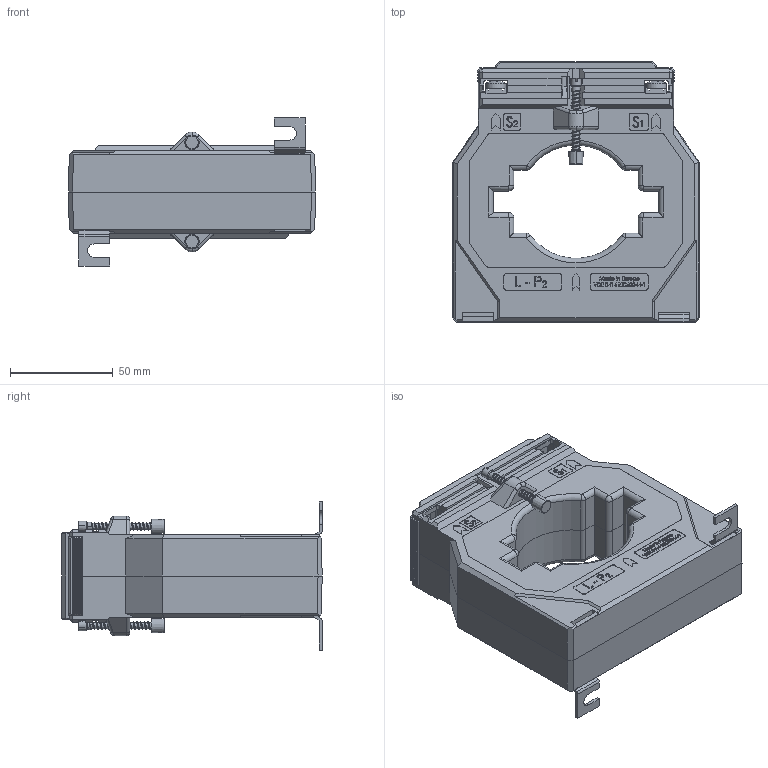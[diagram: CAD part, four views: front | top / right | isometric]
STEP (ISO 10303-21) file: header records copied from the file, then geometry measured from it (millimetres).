
FILE_DESCRIPTION (( 'STEP AP214' ), '1' );
FILE_NAME ('EASK81_4_kpl.STEP', '2011-12-08T08:53:36', ( ' ' ), ( '' ), 'SwSTEP 2.0', 'SolidWorks 2010', '' );
FILE_SCHEMA (( 'AUTOMOTIVE_DESIGN' ));
Length unit declared in the file: millimetre
Products named in the file (10): Verschlussklappe_38mm; Fusswinkel_1,5; Plastite_Schraube_40_mit-Gewinde; MBS_WN-003_04_Klemme_WN-003_02; Isolierschutzkappe; ASK61.4-14_Plombierplatte; Linsenschraube DIN 7985 4.8 VZ M 5 x 10; EASK81_4_Gehäuse-Unterteil_Halbschale_01; EASK81_4_kpl; EASK81_4_Gehäuse-Unterteil
Assembly tree (17 placements, depth 2):
  EASK81_4_kpl
    EASK81_4_Gehäuse-Unterteil
    Fusswinkel_1,5  x2
    Isolierschutzkappe  x2
    MBS_WN-003_04_Klemme_WN-003_02  x2
    Linsenschraube DIN 7985 4.8 VZ M 5 x 10  x4
    ASK61.4-14_Plombierplatte
    Plastite_Schraube_40_mit-Gewinde  x2
    Verschlussklappe_38mm  x2
    EASK81_4_Gehäuse-Unterteil_Halbschale_01
Bounding box: 120 x 126.5 x 72 mm (x, y, z)
Volume: 434476.8 mm3; surface area: 94722.2 mm2
Topology: 17 solids, 17 shells, 1950 faces, 5074 edges, 3280 vertices
Faces by surface type: plane 1258, bspline 322, cylinder 274, cone 48, torus 32, sphere 16
Entity records: 72073 total; most frequent: CARTESIAN_POINT 32653, ORIENTED_EDGE 8776, DIRECTION 6724, EDGE_CURVE 4388, VECTOR 3236, LINE 3236, VERTEX_POINT 2869, EDGE_LOOP 1803
